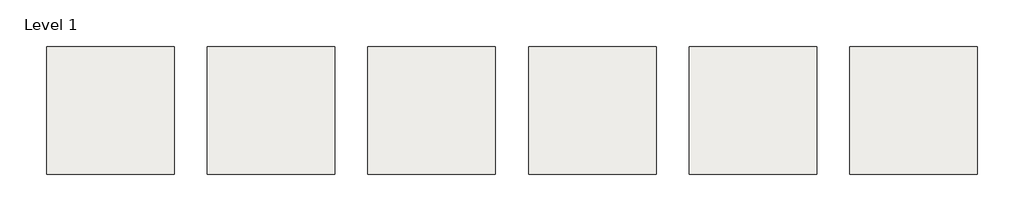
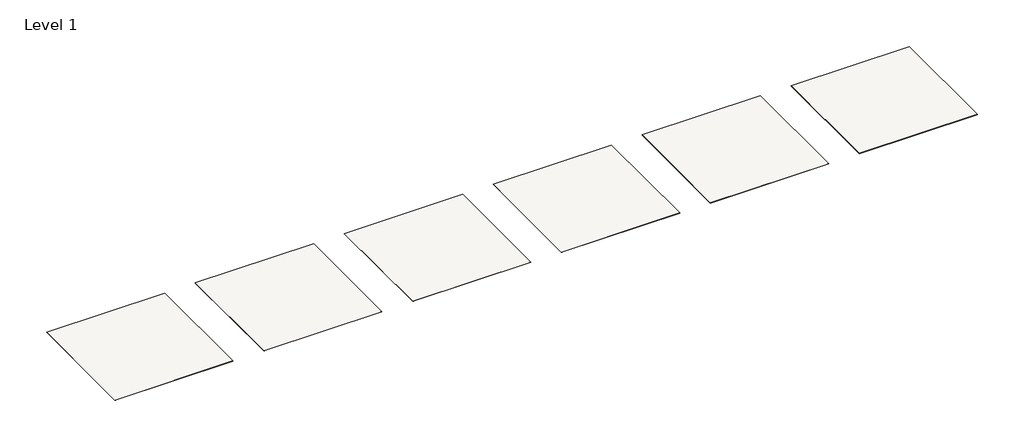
# One storey: 6 slabs.
"""IFC4 building model written with IfcOpenShell, lengths in millimetres."""

from ifc_helpers import new_model, si_unit, frame, origin, place, context, project, spatial, polyline, outline, extrude, element, save

model = new_model("IFC4")

# Units and contexts
model_context = context("Model", 3, world=origin())
ifc_project = project(units=[si_unit("LENGTHUNIT", "METRE", prefix="MILLI")], contexts=[model_context])

# Site, building, storey
site = spatial("IfcSite", under=ifc_project)
building = spatial("IfcBuilding", under=site)
storey = spatial("IfcBuildingStorey", under=building, Name="Level 1", Elevation=0.0)

# Slabs
placement = place(None, origin())
element("IfcSlab", 1, ObjectType="Thesize_Neolith_3mm+-Iron Corten- 3600x1200 mm-Satin", at=placement, inside=storey, context=model_context, shape_type="SweptSolid", body=[
    extrude(outline(polyline([(18632.6076717, -81657.477561), (18632.6076717, -86657.477561), (13632.6076717, -86657.477561), (13632.6076717, -81657.477561), (18632.6076717, -81657.477561)])), frame((0.0, 0.0, -3.0), z_axis=(0.0, 0.0, 1.0), x_axis=(1.0, 0.0, 0.0)), (0.0, 0.0, 1.0), 3.0),
])
element("IfcSlab", 2, ObjectType="Thesize_Neolith_6mm+ - Iron Corten - 3200x1500 mm-Satin", at=placement, inside=storey, context=model_context, shape_type="SweptSolid", body=[
    extrude(outline(polyline([(24932.6076717, -81657.477561), (24932.6076717, -86657.477561), (19932.6076717, -86657.477561), (19932.6076717, -81657.477561), (24932.6076717, -81657.477561)])), frame((0.0, 0.0, -6.0), z_axis=(0.0, 0.0, 1.0), x_axis=(1.0, 0.0, 0.0)), (0.0, 0.0, 1.0), 6.0),
])
element("IfcSlab", 3, ObjectType="Thesize_Neolith_12mm - Iron Corten- 3200x1600 mm-Satin", at=placement, inside=storey, context=model_context, shape_type="SweptSolid", body=[
    extrude(outline(polyline([(31232.6076717, -81657.477561), (31232.6076717, -86657.477561), (26232.6076717, -86657.477561), (26232.6076717, -81657.477561), (31232.6076717, -81657.477561)])), frame((0.0, 0.0, -12.0), z_axis=(0.0, 0.0, 1.0), x_axis=(1.0, 0.0, 0.0)), (0.0, 0.0, 1.0), 12.0),
])
element("IfcSlab", 4, ObjectType="Thesize_Neolith_20mm - Iron Corten- 3200x1600 mm-Satin", at=placement, inside=storey, context=model_context, shape_type="SweptSolid", body=[
    extrude(outline(polyline([(37532.6076717, -81657.477561), (37532.6076717, -86657.477561), (32532.6076717, -86657.477561), (32532.6076717, -81657.477561), (37532.6076717, -81657.477561)])), frame((0.0, 0.0, -20.0), z_axis=(0.0, 0.0, 1.0), x_axis=(1.0, 0.0, 0.0)), (0.0, 0.0, 1.0), 20.0),
])
element("IfcSlab", 5, ObjectType="Thesize_Neolith_6mm+-Iron Corten- 3600x1200 mm-Satin", at=placement, inside=storey, context=model_context, shape_type="SweptSolid", body=[
    extrude(outline(polyline([(12332.6076717, -81657.477561), (12332.6076717, -86657.477561), (7332.6076717, -86657.477561), (7332.6076717, -81657.477561), (12332.6076717, -81657.477561)])), frame((0.0, 0.0, -6.0), z_axis=(0.0, 0.0, 1.0), x_axis=(1.0, 0.0, 0.0)), (0.0, 0.0, 1.0), 6.0),
])
element("IfcSlab", 6, ObjectType="Thesize_Neolith_6mm-Iron Corten- 2600x1200 mm-Satin", at=placement, inside=storey, context=model_context, shape_type="SweptSolid", body=[
    extrude(outline(polyline([(6032.6076717, -81657.477561), (6032.6076717, -86657.477561), (1032.6076717, -86657.477561), (1032.6076717, -81657.477561), (6032.6076717, -81657.477561)])), frame((0.0, 0.0, -6.0), z_axis=(0.0, 0.0, 1.0), x_axis=(1.0, 0.0, 0.0)), (0.0, 0.0, 1.0), 6.0),
])

save(model, "model.ifc")
